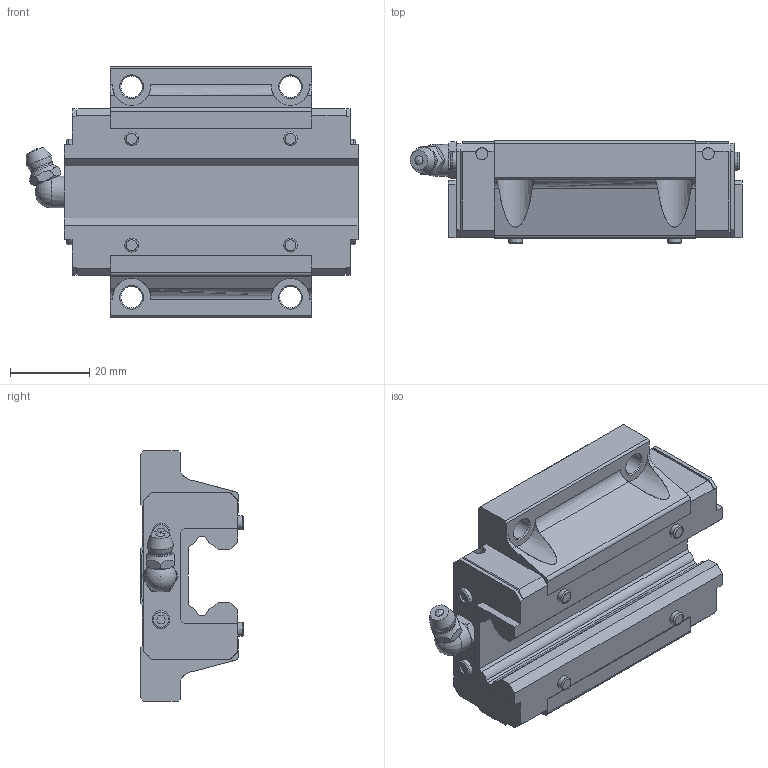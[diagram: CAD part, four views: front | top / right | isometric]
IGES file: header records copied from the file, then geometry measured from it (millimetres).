
Start section: Data from Parasolid IGES Translator 26.0.171, Copyright(c) 2006 Siemens PLM Software. All Rights Reserved.
Global section: file name: HSR20C1SS(GK) BLOCK(1B-M6F).igs; native system: By Siemens PLM Incorporated; preprocessor: XPlus GENERIC/IGES 26.0.171; author: Noname; organization: Noname; date: 20240521.045500; units: millimetre
Bounding box: 83.6 x 26 x 63 mm (x, y, z)
Surface area: 17336.2 mm2 (no closed solid volume)
Topology: 0 solids, 0 shells, 253 faces, 1334 edges, 1264 vertices
Faces by surface type: extrusion 174, revolution 79
